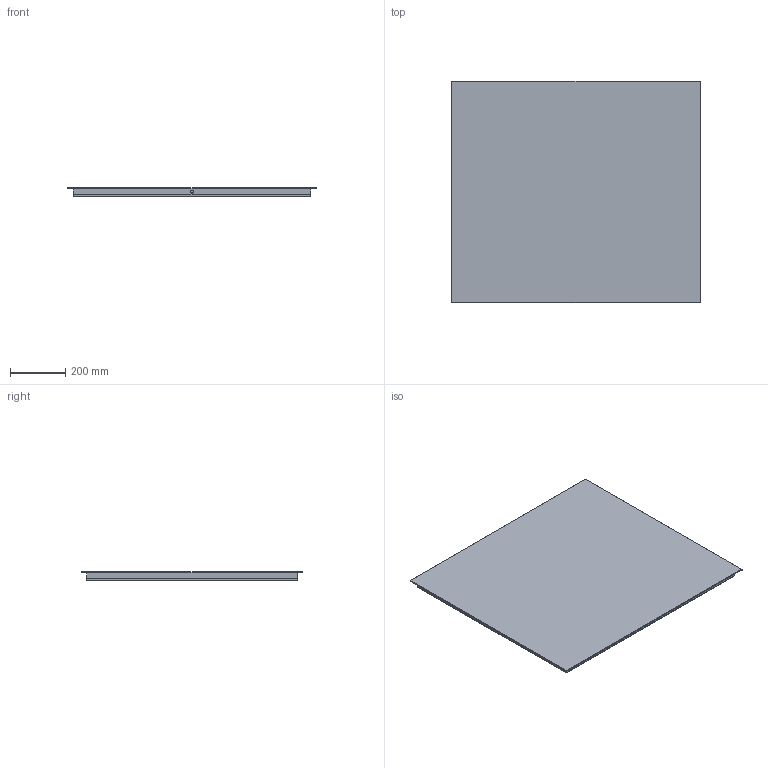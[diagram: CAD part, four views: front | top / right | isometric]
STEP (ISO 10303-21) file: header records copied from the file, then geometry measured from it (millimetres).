
FILE_DESCRIPTION (( 'STEP AP203' ), '1' );
FILE_NAME ('SPIEGEL MODEL 12 90CM.STEP', '2016-07-14T09:42:37', ( '' ), ( '' ), 'SwSTEP 2.0', 'SolidWorks 2016', '' );
FILE_SCHEMA (( 'CONFIG_CONTROL_DESIGN' ));
Length unit declared in the file: millimetre
Products named in the file (1): SPIEGEL MODEL 12 90CM
Bounding box: 900 x 800 x 30 mm (x, y, z)
Volume: 4102150.7 mm3; surface area: 1619403.5 mm2
Topology: 1 solids, 1 shells, 53 faces, 114 edges, 68 vertices
Faces by surface type: plane 47, cylinder 6
Entity records: 1469 total; most frequent: CARTESIAN_POINT 236, DIRECTION 234, ORIENTED_EDGE 228, EDGE_CURVE 114, LINE 102, VECTOR 102, VERTEX_POINT 68, AXIS2_PLACEMENT_3D 66
